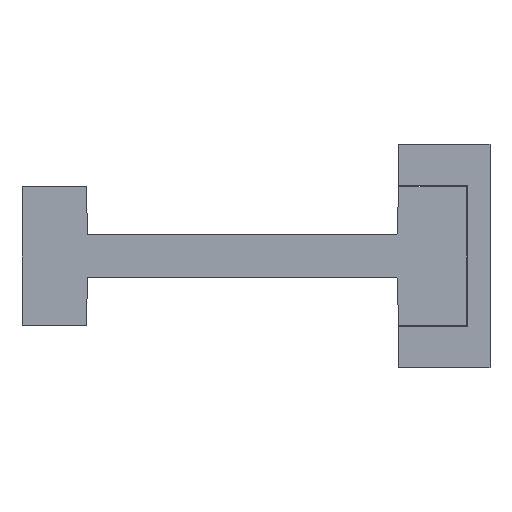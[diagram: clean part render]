
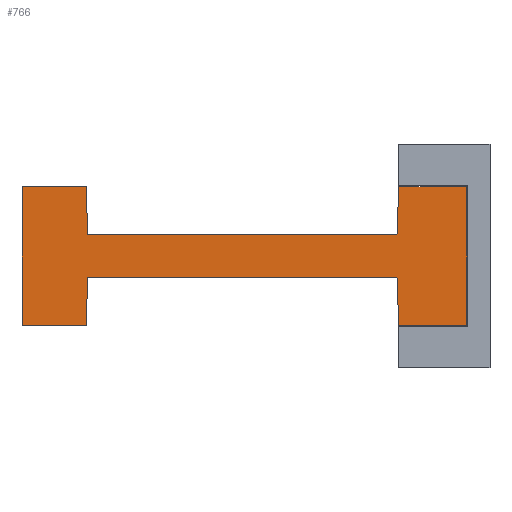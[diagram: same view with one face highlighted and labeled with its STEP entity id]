
A CAD part, left-side view. The second image highlights one B-rep face of the part: STEP entity #766.
In plain terms, the highlighted planar face has unit normal (-1, 0, 0).
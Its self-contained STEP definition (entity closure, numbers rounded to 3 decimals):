
#41 = CARTESIAN_POINT ( 'NONE',  ( -84.097, 119.903, 51.329 ) ) ;
#153 = LINE ( 'NONE', #2958, #4134 ) ;
#239 = VECTOR ( 'NONE', #2438, 1000. ) ;
#300 = CARTESIAN_POINT ( 'NONE',  ( -84.097, 66.803, 35.879 ) ) ;
#364 = DIRECTION ( 'NONE',  ( 0., -0.036, 0.999 ) ) ;
#474 = VERTEX_POINT ( 'NONE', #3974 ) ;
#582 = ORIENTED_EDGE ( 'NONE', *, *, #5449, .F. ) ;
#638 = DIRECTION ( 'NONE',  ( 0., -1., 0. ) ) ;
#722 = EDGE_CURVE ( 'NONE', #5909, #1927, #6268, .T. ) ;
#766 = ADVANCED_FACE ( 'NONE', ( #800 ), #3817, .T. ) ;
#800 = FACE_OUTER_BOUND ( 'NONE', #2292, .T. ) ;
#825 = DIRECTION ( 'NONE',  ( 0., -0.036, -0.999 ) ) ;
#838 = CARTESIAN_POINT ( 'NONE',  ( -84.097, 66.803, 43.079 ) ) ;
#1060 = DIRECTION ( 'NONE',  ( -1., 0., 0. ) ) ;
#1081 = ORIENTED_EDGE ( 'NONE', *, *, #3366, .T. ) ;
#1116 = ORIENTED_EDGE ( 'NONE', *, *, #4047, .T. ) ;
#1169 = DIRECTION ( 'NONE',  ( 0., -1., 0. ) ) ;
#1296 = CARTESIAN_POINT ( 'NONE',  ( -84.097, 119.703, 35.879 ) ) ;
#1432 = CARTESIAN_POINT ( 'NONE',  ( -84.097, 66.503, 51.329 ) ) ;
#1525 = VECTOR ( 'NONE', #3101, 1000. ) ;
#1575 = CARTESIAN_POINT ( 'NONE',  ( -84.097, 130.903, 39.479 ) ) ;
#1579 = CARTESIAN_POINT ( 'NONE',  ( -84.097, 54.903, 27.629 ) ) ;
#1658 = ORIENTED_EDGE ( 'NONE', *, *, #2914, .T. ) ;
#1692 = VERTEX_POINT ( 'NONE', #5901 ) ;
#1744 = LINE ( 'NONE', #4223, #2204 ) ;
#1800 = CARTESIAN_POINT ( 'NONE',  ( -84.097, 130.903, 27.629 ) ) ;
#1820 = CARTESIAN_POINT ( 'NONE',  ( -84.097, 54.903, 51.329 ) ) ;
#1875 = DIRECTION ( 'NONE',  ( 0., -0.024, 1. ) ) ;
#1921 = CARTESIAN_POINT ( 'NONE',  ( -84.097, 54.903, 27.629 ) ) ;
#1927 = VERTEX_POINT ( 'NONE', #2155 ) ;
#1959 = ORIENTED_EDGE ( 'NONE', *, *, #2883, .T. ) ;
#2045 = ORIENTED_EDGE ( 'NONE', *, *, #5277, .T. ) ;
#2068 = VECTOR ( 'NONE', #364, 1000. ) ;
#2115 = DIRECTION ( 'NONE',  ( 0., -1., 0. ) ) ;
#2155 = CARTESIAN_POINT ( 'NONE',  ( -84.097, 54.903, 51.329 ) ) ;
#2166 = VECTOR ( 'NONE', #6024, 1000. ) ;
#2204 = VECTOR ( 'NONE', #3241, 1000. ) ;
#2211 = CARTESIAN_POINT ( 'NONE',  ( -84.097, 54.903, 27.629 ) ) ;
#2256 = LINE ( 'NONE', #5251, #2881 ) ;
#2273 = CARTESIAN_POINT ( 'NONE',  ( -84.097, 130.903, 27.629 ) ) ;
#2292 = EDGE_LOOP ( 'NONE', ( #1959, #3458, #4872, #6348, #4690, #582, #2045, #1116, #1081, #1658, #4101, #3228 ) ) ;
#2350 = DIRECTION ( 'NONE',  ( 0., -1., 0. ) ) ;
#2438 = DIRECTION ( 'NONE',  ( 0., -1., 0. ) ) ;
#2480 = DIRECTION ( 'NONE',  ( 0., 0., -1. ) ) ;
#2546 = EDGE_CURVE ( 'NONE', #3656, #3031, #4036, .T. ) ;
#2846 = EDGE_CURVE ( 'NONE', #5668, #474, #153, .T. ) ;
#2849 = LINE ( 'NONE', #1921, #2166 ) ;
#2881 = VECTOR ( 'NONE', #825, 1000. ) ;
#2883 = EDGE_CURVE ( 'NONE', #3031, #1927, #2849, .T. ) ;
#2907 = CARTESIAN_POINT ( 'NONE',  ( -84.097, 119.703, 35.879 ) ) ;
#2914 = EDGE_CURVE ( 'NONE', #4648, #5790, #3093, .T. ) ;
#2958 = CARTESIAN_POINT ( 'NONE',  ( -84.097, 119.703, 43.079 ) ) ;
#3009 = VERTEX_POINT ( 'NONE', #1800 ) ;
#3031 = VERTEX_POINT ( 'NONE', #2211 ) ;
#3093 = LINE ( 'NONE', #5832, #3307 ) ;
#3101 = DIRECTION ( 'NONE',  ( 0., 0., -1. ) ) ;
#3228 = ORIENTED_EDGE ( 'NONE', *, *, #2546, .T. ) ;
#3241 = DIRECTION ( 'NONE',  ( 0., -1., 0. ) ) ;
#3291 = VECTOR ( 'NONE', #1875, 1000. ) ;
#3307 = VECTOR ( 'NONE', #638, 1000. ) ;
#3362 = LINE ( 'NONE', #1296, #3291 ) ;
#3366 = EDGE_CURVE ( 'NONE', #5656, #4648, #3362, .T. ) ;
#3426 = EDGE_CURVE ( 'NONE', #1692, #5909, #3768, .T. ) ;
#3458 = ORIENTED_EDGE ( 'NONE', *, *, #722, .F. ) ;
#3656 = VERTEX_POINT ( 'NONE', #6224 ) ;
#3768 = LINE ( 'NONE', #838, #2068 ) ;
#3796 = CARTESIAN_POINT ( 'NONE',  ( -84.097, 119.903, 27.629 ) ) ;
#3817 = PLANE ( 'NONE',  #4359 ) ;
#3974 = CARTESIAN_POINT ( 'NONE',  ( -84.097, 119.703, 43.079 ) ) ;
#3988 = LINE ( 'NONE', #1575, #1525 ) ;
#3999 = CARTESIAN_POINT ( 'NONE',  ( -84.097, 130.903, 39.479 ) ) ;
#4036 = LINE ( 'NONE', #1579, #239 ) ;
#4047 = EDGE_CURVE ( 'NONE', #3009, #5656, #6118, .T. ) ;
#4101 = ORIENTED_EDGE ( 'NONE', *, *, #6318, .T. ) ;
#4134 = VECTOR ( 'NONE', #5530, 1000. ) ;
#4215 = VERTEX_POINT ( 'NONE', #4665 ) ;
#4223 = CARTESIAN_POINT ( 'NONE',  ( -84.097, 66.803, 43.079 ) ) ;
#4359 = AXIS2_PLACEMENT_3D ( 'NONE', #3999, #1060, #2480 ) ;
#4449 = CARTESIAN_POINT ( 'NONE',  ( -84.097, 130.903, 51.329 ) ) ;
#4648 = VERTEX_POINT ( 'NONE', #2907 ) ;
#4665 = CARTESIAN_POINT ( 'NONE',  ( -84.097, 130.903, 51.329 ) ) ;
#4690 = ORIENTED_EDGE ( 'NONE', *, *, #2846, .F. ) ;
#4872 = ORIENTED_EDGE ( 'NONE', *, *, #3426, .F. ) ;
#5086 = EDGE_CURVE ( 'NONE', #474, #1692, #1744, .T. ) ;
#5135 = VECTOR ( 'NONE', #2115, 1000. ) ;
#5251 = CARTESIAN_POINT ( 'NONE',  ( -84.097, 66.803, 35.879 ) ) ;
#5277 = EDGE_CURVE ( 'NONE', #4215, #3009, #3988, .T. ) ;
#5449 = EDGE_CURVE ( 'NONE', #4215, #5668, #5774, .T. ) ;
#5530 = DIRECTION ( 'NONE',  ( 0., -0.024, -1. ) ) ;
#5656 = VERTEX_POINT ( 'NONE', #3796 ) ;
#5668 = VERTEX_POINT ( 'NONE', #41 ) ;
#5764 = VECTOR ( 'NONE', #1169, 1000. ) ;
#5774 = LINE ( 'NONE', #4449, #5135 ) ;
#5790 = VERTEX_POINT ( 'NONE', #300 ) ;
#5832 = CARTESIAN_POINT ( 'NONE',  ( -84.097, 66.803, 35.879 ) ) ;
#5901 = CARTESIAN_POINT ( 'NONE',  ( -84.097, 66.803, 43.079 ) ) ;
#5909 = VERTEX_POINT ( 'NONE', #1432 ) ;
#6024 = DIRECTION ( 'NONE',  ( 0., 0., 1. ) ) ;
#6114 = VECTOR ( 'NONE', #2350, 1000. ) ;
#6118 = LINE ( 'NONE', #2273, #5764 ) ;
#6224 = CARTESIAN_POINT ( 'NONE',  ( -84.097, 66.503, 27.629 ) ) ;
#6268 = LINE ( 'NONE', #1820, #6114 ) ;
#6318 = EDGE_CURVE ( 'NONE', #5790, #3656, #2256, .T. ) ;
#6348 = ORIENTED_EDGE ( 'NONE', *, *, #5086, .F. ) ;
